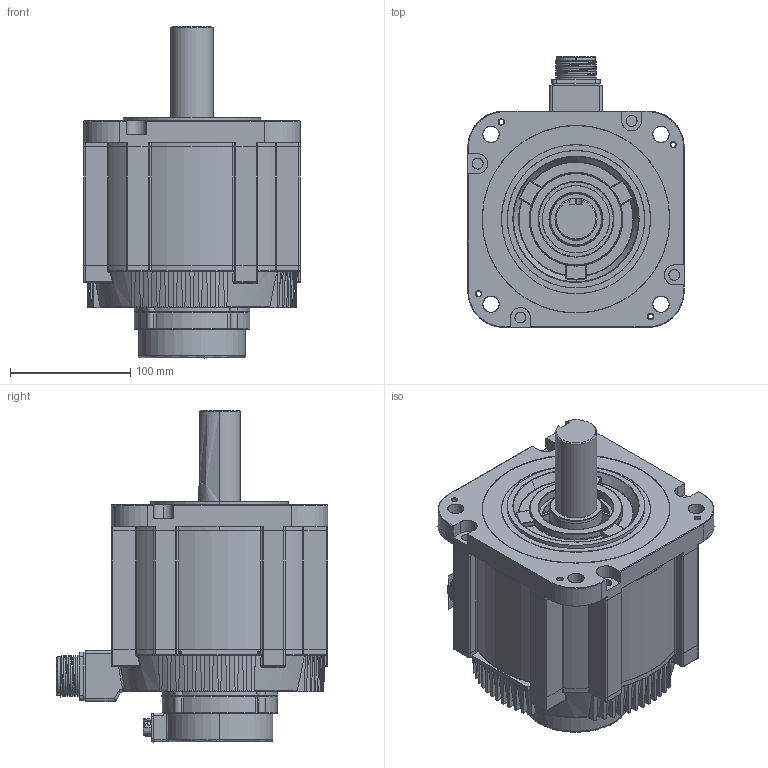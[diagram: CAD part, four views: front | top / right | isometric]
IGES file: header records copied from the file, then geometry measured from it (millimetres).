
Start section: SolidWorks IGES file using analytic representation for surfaces
Global section: file name: C:\Users\11755\Desktop\騰禾380V\外型圖\SMP系列_馬達外型圖(客戶版)\3D-IGES\SMP-H440.IGS; native system: SolidWorks 2016; preprocessor: SolidWorks 2016; author: 11755; date: 210504.135357; units: millimetre
Bounding box: 180 x 225.8 x 276.3 mm (x, y, z)
Surface area: 284183.5 mm2 (no closed solid volume)
Topology: 0 solids, 0 shells, 1006 faces, 11764 edges, 11744 vertices
Faces by surface type: revolution 532, bspline 474
